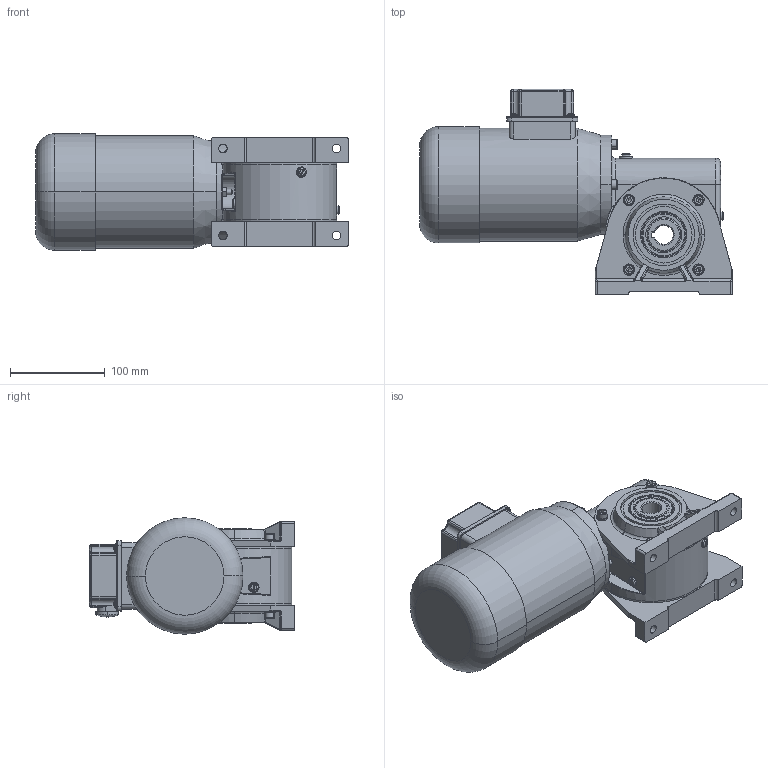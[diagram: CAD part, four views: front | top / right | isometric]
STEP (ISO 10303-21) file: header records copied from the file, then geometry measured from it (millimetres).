
FILE_DESCRIPTION (( 'STEP AP214' ), '1' );
FILE_NAME ('SN8SHH_180W_1400Upm_Drehstrom-Motor_D.STEP', '2021-09-21T12:56:42', ( '' ), ( '' ), 'SwSTEP 2.0', 'SolidWorks 2019', '' );
FILE_SCHEMA (( 'AUTOMOTIVE_DESIGN' ));
Length unit declared in the file: millimetre
Products named in the file (13): socket set screw flat point_din_DIN 913 - M6 x 25-C; U-Seal Ring Ø5; 08SHH-D-001_3D_Export; slotted pan head screw_din_DIN EN ISO 1580 - M5 x 6 - 6C; SN8SHH_180W_1400Upm_Drehstrom-Motor_D; Kupferscheibe Ø6x12x1,5 DIN7603 A; socket head cap screw_din_DIN 912 M6 x 20 --- 20C; 08-M-166 I 180W_1400Upm; hex nut style 1 gradeab_din_Hexagon Nut ISO 4032 - M6 - D - C; NBR_WDR_35x47x7; SN8SHH_3D_Export; 08FH-W-001_3D_Export; 08B-G-003_3D_Export
Assembly tree (37 placements, depth 3):
  SN8SHH_180W_1400Upm_Drehstrom-Motor_D
    SN8SHH_3D_Export
      08B-G-003_3D_Export
      08FH-W-001_3D_Export
      08SHH-D-001_3D_Export  x2
      NBR_WDR_35x47x7  x2
      socket head cap screw_din_DIN 912 M6 x 20 --- 20C  x11
      slotted pan head screw_din_DIN EN ISO 1580 - M5 x 6 - 6C  x4
      socket set screw flat point_din_DIN 913 - M6 x 25-C
      hex nut style 1 gradeab_din_Hexagon Nut ISO 4032 - M6 - D - C
      Kupferscheibe Ø6x12x1,5 DIN7603 A  x8
      U-Seal Ring Ø5  x4
    08-M-166 I 180W_1400Upm
Bounding box: 330.5 x 216.7 x 123 mm (x, y, z)
Volume: 3502532.6 mm3; surface area: 337238.1 mm2
Topology: 37 solids, 37 shells, 1333 faces, 3165 edges, 1934 vertices
Faces by surface type: cylinder 450, plane 406, torus 206, cone 189, bspline 58, sphere 24
Entity records: 28901 total; most frequent: CARTESIAN_POINT 8527, DIRECTION 4397, ORIENTED_EDGE 4020, EDGE_CURVE 2010, AXIS2_PLACEMENT_3D 1870, VERTEX_POINT 1259, CIRCLE 1048, EDGE_LOOP 901
